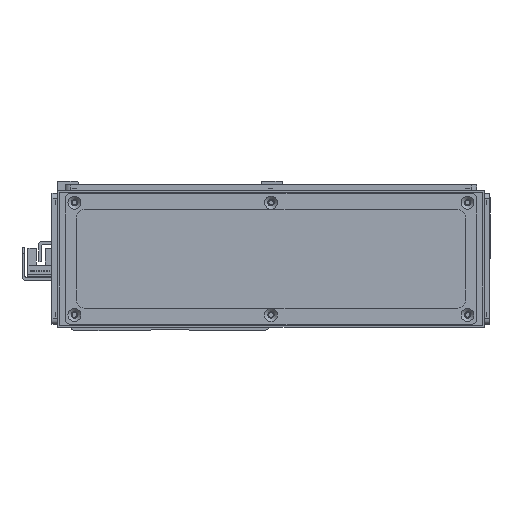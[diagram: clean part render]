
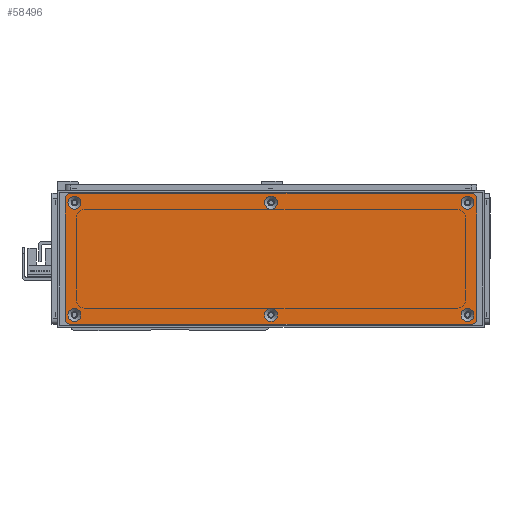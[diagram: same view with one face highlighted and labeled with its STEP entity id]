
A CAD part, front view. The second image highlights one B-rep face of the part: STEP entity #58496.
In plain terms, the highlighted planar face has unit normal (0, -1, 0).
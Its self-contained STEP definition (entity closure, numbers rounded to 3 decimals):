
#2521=FACE_BOUND('',#10040,.T.);
#2522=FACE_BOUND('',#10041,.T.);
#2523=FACE_BOUND('',#10042,.T.);
#2524=FACE_BOUND('',#10043,.T.);
#2525=FACE_BOUND('',#10044,.T.);
#2526=FACE_BOUND('',#10045,.T.);
#3811=CIRCLE('',#63036,3.45);
#3814=CIRCLE('',#63041,3.45);
#3817=CIRCLE('',#63046,3.45);
#3820=CIRCLE('',#63051,3.45);
#3823=CIRCLE('',#63056,3.45);
#3826=CIRCLE('',#63061,3.45);
#3829=CIRCLE('',#63066,3.);
#3831=CIRCLE('',#63069,3.);
#3832=CIRCLE('',#63070,3.);
#3833=CIRCLE('',#63071,3.);
#6689=FACE_OUTER_BOUND('',#10039,.T.);
#10039=EDGE_LOOP('',(#52875,#52876,#52877,#52878,#52879,#52880,#52881,#52882));
#10040=EDGE_LOOP('',(#52883));
#10041=EDGE_LOOP('',(#52884));
#10042=EDGE_LOOP('',(#52885));
#10043=EDGE_LOOP('',(#52886));
#10044=EDGE_LOOP('',(#52887));
#10045=EDGE_LOOP('',(#52888));
#16548=LINE('',#97903,#23106);
#16549=LINE('',#97907,#23107);
#16550=LINE('',#97911,#23108);
#16551=LINE('',#97914,#23109);
#23106=VECTOR('',#77789,10.);
#23107=VECTOR('',#77792,10.);
#23108=VECTOR('',#77795,10.);
#23109=VECTOR('',#77798,10.);
#28625=VERTEX_POINT('',#97833);
#28628=VERTEX_POINT('',#97843);
#28631=VERTEX_POINT('',#97853);
#28634=VERTEX_POINT('',#97863);
#28637=VERTEX_POINT('',#97873);
#28640=VERTEX_POINT('',#97883);
#28643=VERTEX_POINT('',#97893);
#28644=VERTEX_POINT('',#97894);
#28647=VERTEX_POINT('',#97902);
#28648=VERTEX_POINT('',#97904);
#28649=VERTEX_POINT('',#97906);
#28650=VERTEX_POINT('',#97908);
#28651=VERTEX_POINT('',#97910);
#28652=VERTEX_POINT('',#97912);
#36735=EDGE_CURVE('',#28625,#28625,#3811,.T.);
#36740=EDGE_CURVE('',#28628,#28628,#3814,.T.);
#36745=EDGE_CURVE('',#28631,#28631,#3817,.T.);
#36750=EDGE_CURVE('',#28634,#28634,#3820,.T.);
#36755=EDGE_CURVE('',#28637,#28637,#3823,.T.);
#36760=EDGE_CURVE('',#28640,#28640,#3826,.T.);
#36765=EDGE_CURVE('',#28643,#28644,#3829,.T.);
#36769=EDGE_CURVE('',#28643,#28647,#16548,.T.);
#36770=EDGE_CURVE('',#28648,#28647,#3831,.T.);
#36771=EDGE_CURVE('',#28648,#28649,#16549,.T.);
#36772=EDGE_CURVE('',#28650,#28649,#3832,.T.);
#36773=EDGE_CURVE('',#28650,#28651,#16550,.T.);
#36774=EDGE_CURVE('',#28652,#28651,#3833,.T.);
#36775=EDGE_CURVE('',#28652,#28644,#16551,.T.);
#52875=ORIENTED_EDGE('',*,*,#36765,.F.);
#52876=ORIENTED_EDGE('',*,*,#36769,.T.);
#52877=ORIENTED_EDGE('',*,*,#36770,.F.);
#52878=ORIENTED_EDGE('',*,*,#36771,.T.);
#52879=ORIENTED_EDGE('',*,*,#36772,.F.);
#52880=ORIENTED_EDGE('',*,*,#36773,.T.);
#52881=ORIENTED_EDGE('',*,*,#36774,.F.);
#52882=ORIENTED_EDGE('',*,*,#36775,.T.);
#52883=ORIENTED_EDGE('',*,*,#36735,.T.);
#52884=ORIENTED_EDGE('',*,*,#36740,.T.);
#52885=ORIENTED_EDGE('',*,*,#36745,.T.);
#52886=ORIENTED_EDGE('',*,*,#36750,.T.);
#52887=ORIENTED_EDGE('',*,*,#36755,.T.);
#52888=ORIENTED_EDGE('',*,*,#36760,.T.);
#55663=PLANE('',#63068);
#58496=ADVANCED_FACE('',(#6689,#2521,#2522,#2523,#2524,#2525,#2526),#55663,
 .T.);
#63036=AXIS2_PLACEMENT_3D('',#97834,#77709,#77710);
#63041=AXIS2_PLACEMENT_3D('',#97844,#77721,#77722);
#63046=AXIS2_PLACEMENT_3D('',#97854,#77733,#77734);
#63051=AXIS2_PLACEMENT_3D('',#97864,#77745,#77746);
#63056=AXIS2_PLACEMENT_3D('',#97874,#77757,#77758);
#63061=AXIS2_PLACEMENT_3D('',#97884,#77769,#77770);
#63066=AXIS2_PLACEMENT_3D('',#97895,#77781,#77782);
#63068=AXIS2_PLACEMENT_3D('',#97901,#77787,#77788);
#63069=AXIS2_PLACEMENT_3D('',#97905,#77790,#77791);
#63070=AXIS2_PLACEMENT_3D('',#97909,#77793,#77794);
#63071=AXIS2_PLACEMENT_3D('',#97913,#77796,#77797);
#77709=DIRECTION('center_axis',(0.,1.,0.));
#77710=DIRECTION('ref_axis',(1.,0.,0.));
#77721=DIRECTION('center_axis',(0.,1.,0.));
#77722=DIRECTION('ref_axis',(1.,0.,0.));
#77733=DIRECTION('center_axis',(0.,1.,0.));
#77734=DIRECTION('ref_axis',(1.,0.,0.));
#77745=DIRECTION('center_axis',(0.,1.,0.));
#77746=DIRECTION('ref_axis',(1.,0.,0.));
#77757=DIRECTION('center_axis',(0.,1.,0.));
#77758=DIRECTION('ref_axis',(1.,0.,0.));
#77769=DIRECTION('center_axis',(0.,1.,0.));
#77770=DIRECTION('ref_axis',(1.,0.,0.));
#77781=DIRECTION('center_axis',(0.,1.,0.));
#77782=DIRECTION('ref_axis',(-0.707,0.,0.707));
#77787=DIRECTION('center_axis',(0.,-1.,0.));
#77788=DIRECTION('ref_axis',(0.,0.,-1.));
#77789=DIRECTION('',(0.,0.,-1.));
#77790=DIRECTION('center_axis',(0.,1.,0.));
#77791=DIRECTION('ref_axis',(-0.707,0.,-0.707));
#77792=DIRECTION('',(1.,0.,0.));
#77793=DIRECTION('center_axis',(0.,1.,0.));
#77794=DIRECTION('ref_axis',(0.707,0.,-0.707));
#77795=DIRECTION('',(0.,0.,1.));
#77796=DIRECTION('center_axis',(0.,1.,0.));
#77797=DIRECTION('ref_axis',(0.707,0.,0.707));
#77798=DIRECTION('',(-1.,0.,0.));
#97833=CARTESIAN_POINT('',(101.55,-1.5,30.));
#97834=CARTESIAN_POINT('Origin',(105.,-1.5,30.));
#97843=CARTESIAN_POINT('',(-3.45,-1.5,-30.));
#97844=CARTESIAN_POINT('Origin',(0.,-1.5,-30.));
#97853=CARTESIAN_POINT('',(-108.45,-1.5,30.));
#97854=CARTESIAN_POINT('Origin',(-105.,-1.5,30.));
#97863=CARTESIAN_POINT('',(-108.45,-1.5,-30.));
#97864=CARTESIAN_POINT('Origin',(-105.,-1.5,-30.));
#97873=CARTESIAN_POINT('',(-3.45,-1.5,30.));
#97874=CARTESIAN_POINT('Origin',(0.,-1.5,30.));
#97883=CARTESIAN_POINT('',(101.55,-1.5,-30.));
#97884=CARTESIAN_POINT('Origin',(105.,-1.5,-30.));
#97893=CARTESIAN_POINT('',(-110.,-1.5,32.));
#97894=CARTESIAN_POINT('',(-107.,-1.5,35.));
#97895=CARTESIAN_POINT('Origin',(-107.,-1.5,32.));
#97901=CARTESIAN_POINT('Origin',(0.,-1.5,0.));
#97902=CARTESIAN_POINT('',(-110.,-1.5,-32.));
#97903=CARTESIAN_POINT('',(-110.,-1.5,35.));
#97904=CARTESIAN_POINT('',(-107.,-1.5,-35.));
#97905=CARTESIAN_POINT('Origin',(-107.,-1.5,-32.));
#97906=CARTESIAN_POINT('',(107.,-1.5,-35.));
#97907=CARTESIAN_POINT('',(-110.,-1.5,-35.));
#97908=CARTESIAN_POINT('',(110.,-1.5,-32.));
#97909=CARTESIAN_POINT('Origin',(107.,-1.5,-32.));
#97910=CARTESIAN_POINT('',(110.,-1.5,32.));
#97911=CARTESIAN_POINT('',(110.,-1.5,-35.));
#97912=CARTESIAN_POINT('',(107.,-1.5,35.));
#97913=CARTESIAN_POINT('Origin',(107.,-1.5,32.));
#97914=CARTESIAN_POINT('',(110.,-1.5,35.));
